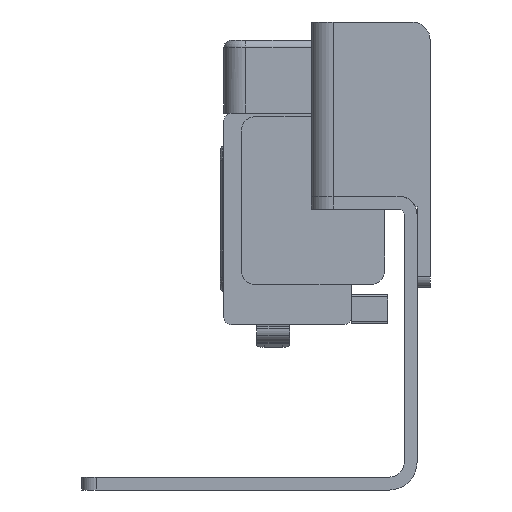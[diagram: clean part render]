
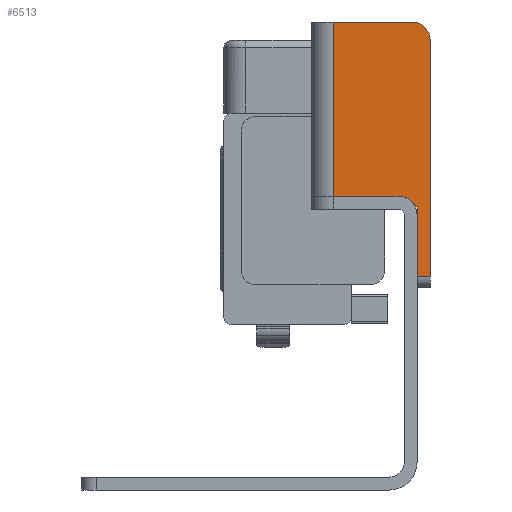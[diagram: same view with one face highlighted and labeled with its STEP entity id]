
A CAD part, left-side view. The second image highlights one B-rep face of the part: STEP entity #6513.
In plain terms, the highlighted planar face has unit normal (-1, 0, 0).
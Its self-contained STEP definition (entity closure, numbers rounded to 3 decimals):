
#17 = DIRECTION ( 'NONE',  ( 0., -1., 0. ) ) ;
#168 = VERTEX_POINT ( 'NONE', #1780 ) ;
#214 = CARTESIAN_POINT ( 'NONE',  ( -73.32, 11.5, -18.93 ) ) ;
#244 = ORIENTED_EDGE ( 'NONE', *, *, #2095, .T. ) ;
#330 = VERTEX_POINT ( 'NONE', #6328 ) ;
#347 = DIRECTION ( 'NONE',  ( 0., 0., -1. ) ) ;
#464 = DIRECTION ( 'NONE',  ( 0., 1., 0. ) ) ;
#476 = FACE_OUTER_BOUND ( 'NONE', #939, .T. ) ;
#482 = ORIENTED_EDGE ( 'NONE', *, *, #3565, .T. ) ;
#552 = EDGE_CURVE ( 'NONE', #5889, #4189, #5748, .T. ) ;
#565 = DIRECTION ( 'NONE',  ( 1., 0., 0. ) ) ;
#805 = DIRECTION ( 'NONE',  ( 0., -1., 0. ) ) ;
#926 = VERTEX_POINT ( 'NONE', #2621 ) ;
#939 = EDGE_LOOP ( 'NONE', ( #3205, #482, #244, #1109, #4791, #1919, #6134, #2167, #3924, #2709 ) ) ;
#1025 = CARTESIAN_POINT ( 'NONE',  ( -73.32, 0.7, -18.93 ) ) ;
#1067 = LINE ( 'NONE', #6421, #3630 ) ;
#1091 = VECTOR ( 'NONE', #464, 1000. ) ;
#1109 = ORIENTED_EDGE ( 'NONE', *, *, #6474, .F. ) ;
#1464 = VERTEX_POINT ( 'NONE', #214 ) ;
#1510 = PLANE ( 'NONE',  #1817 ) ;
#1579 = VECTOR ( 'NONE', #4540, 1000. ) ;
#1614 = EDGE_CURVE ( 'NONE', #5889, #330, #4991, .T. ) ;
#1690 = CIRCLE ( 'NONE', #3148, 2.47 ) ;
#1766 = LINE ( 'NONE', #5744, #1579 ) ;
#1780 = CARTESIAN_POINT ( 'NONE',  ( -73.32, 0., -44.319 ) ) ;
#1817 = AXIS2_PLACEMENT_3D ( 'NONE', #7306, #3869, #347 ) ;
#1892 = VECTOR ( 'NONE', #5620, 1000. ) ;
#1919 = ORIENTED_EDGE ( 'NONE', *, *, #552, .F. ) ;
#2016 = CARTESIAN_POINT ( 'NONE',  ( -73.32, 11.5, -49.43 ) ) ;
#2095 = EDGE_CURVE ( 'NONE', #6993, #168, #7412, .T. ) ;
#2167 = ORIENTED_EDGE ( 'NONE', *, *, #2322, .T. ) ;
#2226 = VECTOR ( 'NONE', #3257, 1000. ) ;
#2322 = EDGE_CURVE ( 'NONE', #330, #926, #7324, .T. ) ;
#2362 = CARTESIAN_POINT ( 'NONE',  ( -73.32, 0.217, -44.319 ) ) ;
#2561 = CARTESIAN_POINT ( 'NONE',  ( -73.32, -1.8, -44.319 ) ) ;
#2585 = CARTESIAN_POINT ( 'NONE',  ( -73.32, 0., -45.33 ) ) ;
#2621 = CARTESIAN_POINT ( 'NONE',  ( -73.32, 0.7, -18.93 ) ) ;
#2709 = ORIENTED_EDGE ( 'NONE', *, *, #3845, .F. ) ;
#2779 = VECTOR ( 'NONE', #6803, 1000. ) ;
#2965 = LINE ( 'NONE', #2016, #7192 ) ;
#3083 = AXIS2_PLACEMENT_3D ( 'NONE', #6851, #3399, #7424 ) ;
#3148 = AXIS2_PLACEMENT_3D ( 'NONE', #4079, #565, #4657 ) ;
#3205 = ORIENTED_EDGE ( 'NONE', *, *, #6167, .T. ) ;
#3257 = DIRECTION ( 'NONE',  ( 0., 0., 1. ) ) ;
#3399 = DIRECTION ( 'NONE',  ( -1., 0., 0. ) ) ;
#3565 = EDGE_CURVE ( 'NONE', #7049, #6993, #1690, .T. ) ;
#3630 = VECTOR ( 'NONE', #17, 1000. ) ;
#3777 = LINE ( 'NONE', #5562, #2226 ) ;
#3845 = EDGE_CURVE ( 'NONE', #5248, #1464, #2965, .T. ) ;
#3869 = DIRECTION ( 'NONE',  ( -1., 0., 0. ) ) ;
#3924 = ORIENTED_EDGE ( 'NONE', *, *, #6823, .T. ) ;
#4079 = CARTESIAN_POINT ( 'NONE',  ( -73.32, 2.47, -45.33 ) ) ;
#4168 = CARTESIAN_POINT ( 'NONE',  ( -73.32, 2.47, -42.86 ) ) ;
#4189 = VERTEX_POINT ( 'NONE', #6239 ) ;
#4253 = EDGE_CURVE ( 'NONE', #4189, #5379, #1766, .T. ) ;
#4314 = LINE ( 'NONE', #1025, #2779 ) ;
#4540 = DIRECTION ( 'NONE',  ( 0., 0., 1. ) ) ;
#4657 = DIRECTION ( 'NONE',  ( 0., -1., 0. ) ) ;
#4791 = ORIENTED_EDGE ( 'NONE', *, *, #4253, .F. ) ;
#4991 = LINE ( 'NONE', #5548, #1892 ) ;
#5248 = VERTEX_POINT ( 'NONE', #5356 ) ;
#5356 = CARTESIAN_POINT ( 'NONE',  ( -73.32, 11.5, -42.86 ) ) ;
#5379 = VERTEX_POINT ( 'NONE', #2585 ) ;
#5548 = CARTESIAN_POINT ( 'NONE',  ( -73.32, -1.8, -49.43 ) ) ;
#5562 = CARTESIAN_POINT ( 'NONE',  ( -73.32, 0., -38.458 ) ) ;
#5620 = DIRECTION ( 'NONE',  ( 0., 0., 1. ) ) ;
#5744 = CARTESIAN_POINT ( 'NONE',  ( -73.32, 0., -38.458 ) ) ;
#5748 = LINE ( 'NONE', #7438, #1091 ) ;
#5889 = VERTEX_POINT ( 'NONE', #7288 ) ;
#5905 = VECTOR ( 'NONE', #805, 1000. ) ;
#6134 = ORIENTED_EDGE ( 'NONE', *, *, #1614, .T. ) ;
#6167 = EDGE_CURVE ( 'NONE', #5248, #7049, #1067, .T. ) ;
#6239 = CARTESIAN_POINT ( 'NONE',  ( -73.32, 0., -53.83 ) ) ;
#6328 = CARTESIAN_POINT ( 'NONE',  ( -73.32, -1.8, -21.43 ) ) ;
#6421 = CARTESIAN_POINT ( 'NONE',  ( -73.32, 12.42, -42.86 ) ) ;
#6474 = EDGE_CURVE ( 'NONE', #5379, #168, #3777, .T. ) ;
#6513 = ADVANCED_FACE ( 'NONE', ( #476 ), #1510, .T. ) ;
#6654 = DIRECTION ( 'NONE',  ( 0., 0., 1. ) ) ;
#6803 = DIRECTION ( 'NONE',  ( 0., 1., 0. ) ) ;
#6823 = EDGE_CURVE ( 'NONE', #926, #1464, #4314, .T. ) ;
#6851 = CARTESIAN_POINT ( 'NONE',  ( -73.32, 0.7, -21.43 ) ) ;
#6993 = VERTEX_POINT ( 'NONE', #2362 ) ;
#7049 = VERTEX_POINT ( 'NONE', #4168 ) ;
#7192 = VECTOR ( 'NONE', #6654, 1000. ) ;
#7288 = CARTESIAN_POINT ( 'NONE',  ( -73.32, -1.8, -53.83 ) ) ;
#7306 = CARTESIAN_POINT ( 'NONE',  ( -73.32, -12.781, -49.43 ) ) ;
#7324 = CIRCLE ( 'NONE', #3083, 2.5 ) ;
#7412 = LINE ( 'NONE', #2561, #5905 ) ;
#7424 = DIRECTION ( 'NONE',  ( 0., -1., 0. ) ) ;
#7438 = CARTESIAN_POINT ( 'NONE',  ( -73.32, -12.781, -53.83 ) ) ;
